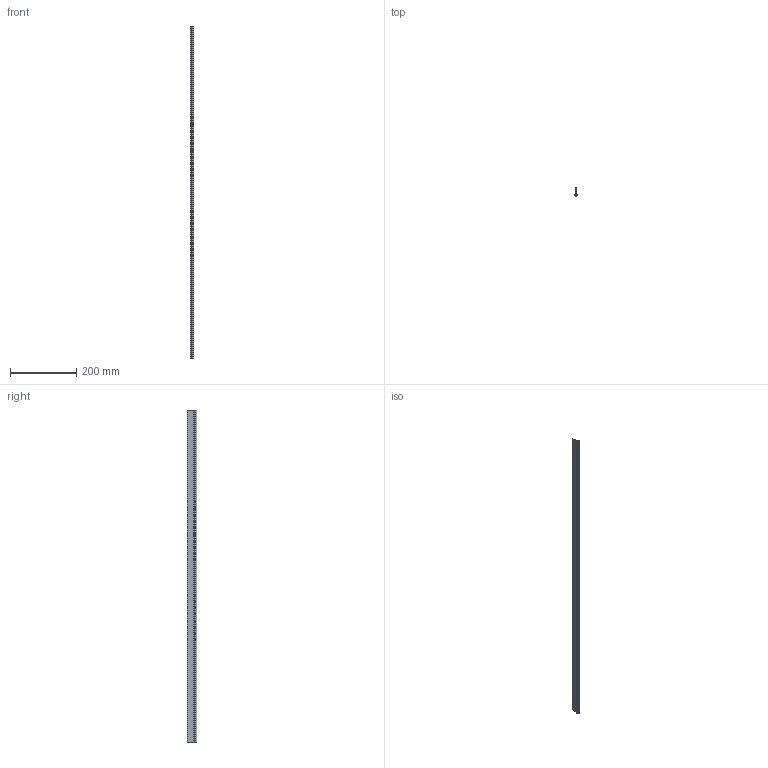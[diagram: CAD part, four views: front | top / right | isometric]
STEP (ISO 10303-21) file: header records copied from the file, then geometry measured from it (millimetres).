
FILE_DESCRIPTION (( 'STEP AP214' ), '1' );
FILE_NAME ('EBIW-2389.STEP', '2016-02-19T06:18:17', ( '' ), ( '' ), 'SwSTEP 2.0', 'SolidWorks 2012', '' );
FILE_SCHEMA (( 'AUTOMOTIVE_DESIGN' ));
Length unit declared in the file: millimetre
Products named in the file (1): EBIW-2389
Bounding box: 11.2 x 27.77 x 1000 mm (x, y, z)
Volume: 73629.1 mm3; surface area: 84052.8 mm2
Topology: 1 solids, 1 shells, 29 faces, 81 edges, 54 vertices
Faces by surface type: plane 19, cylinder 10
Entity records: 973 total; most frequent: CARTESIAN_POINT 165, ORIENTED_EDGE 162, DIRECTION 161, EDGE_CURVE 81, LINE 61, VECTOR 61, VERTEX_POINT 54, AXIS2_PLACEMENT_3D 50
